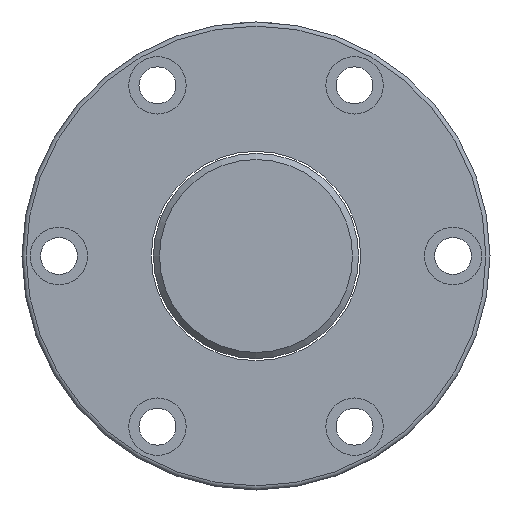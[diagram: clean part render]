
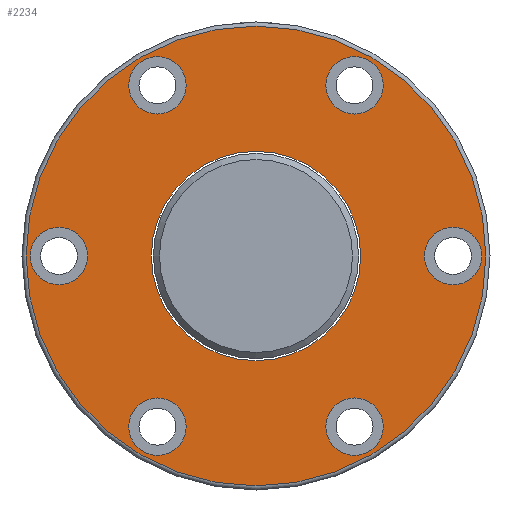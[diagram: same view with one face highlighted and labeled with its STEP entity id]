
A CAD part, left-side view. The second image highlights one B-rep face of the part: STEP entity #2234.
In plain terms, the highlighted planar face has unit normal (-1, 0, 0).
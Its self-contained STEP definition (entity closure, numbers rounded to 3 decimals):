
#9 = CIRCLE ( 'NONE', #2821, 7. ) ;
#85 = FACE_BOUND ( 'NONE', #2597, .T. ) ;
#100 = FACE_BOUND ( 'NONE', #2861, .T. ) ;
#181 = DIRECTION ( 'NONE',  ( 1., 0., 0. ) ) ;
#202 = DIRECTION ( 'NONE',  ( 1., 0., 0. ) ) ;
#273 = CARTESIAN_POINT ( 'NONE',  ( -60., -24.001, -41.57 ) ) ;
#274 = CARTESIAN_POINT ( 'NONE',  ( -60., 0., -56. ) ) ;
#293 = CIRCLE ( 'NONE', #1679, 7. ) ;
#294 = ORIENTED_EDGE ( 'NONE', *, *, #775, .T. ) ;
#309 = CARTESIAN_POINT ( 'NONE',  ( -60., 0., 0. ) ) ;
#310 = CARTESIAN_POINT ( 'NONE',  ( -60., -24., 41.57 ) ) ;
#316 = CARTESIAN_POINT ( 'NONE',  ( -60., 30.063, 45.07 ) ) ;
#337 = EDGE_LOOP ( 'NONE', ( #1004 ) ) ;
#510 = AXIS2_PLACEMENT_3D ( 'NONE', #309, #556, #797 ) ;
#514 = DIRECTION ( 'NONE',  ( 1., 0., 0. ) ) ;
#530 = DIRECTION ( 'NONE',  ( 0., -0.866, 0.5 ) ) ;
#556 = DIRECTION ( 'NONE',  ( 1., 0., 0. ) ) ;
#564 = VERTEX_POINT ( 'NONE', #1245 ) ;
#632 = DIRECTION ( 'NONE',  ( 0., 0., 1. ) ) ;
#659 = EDGE_CURVE ( 'NONE', #1369, #1369, #779, .T. ) ;
#754 = CIRCLE ( 'NONE', #2559, 25.5 ) ;
#775 = EDGE_CURVE ( 'NONE', #1841, #1841, #9, .T. ) ;
#779 = CIRCLE ( 'NONE', #1154, 7. ) ;
#782 = FACE_BOUND ( 'NONE', #1626, .T. ) ;
#797 = DIRECTION ( 'NONE',  ( 0., 0., -1. ) ) ;
#838 = EDGE_CURVE ( 'NONE', #2783, #2783, #293, .T. ) ;
#873 = EDGE_CURVE ( 'NONE', #1442, #1442, #1959, .T. ) ;
#942 = CARTESIAN_POINT ( 'NONE',  ( -60., 54.063, -3.5 ) ) ;
#970 = DIRECTION ( 'NONE',  ( 0., -0.866, -0.5 ) ) ;
#977 = EDGE_LOOP ( 'NONE', ( #1032 ) ) ;
#987 = ORIENTED_EDGE ( 'NONE', *, *, #1674, .T. ) ;
#989 = CIRCLE ( 'NONE', #510, 56. ) ;
#1004 = ORIENTED_EDGE ( 'NONE', *, *, #2108, .T. ) ;
#1005 = CARTESIAN_POINT ( 'NONE',  ( -60., 30., 0. ) ) ;
#1032 = ORIENTED_EDGE ( 'NONE', *, *, #659, .T. ) ;
#1112 = DIRECTION ( 'NONE',  ( 0., 0.866, -0.5 ) ) ;
#1115 = EDGE_LOOP ( 'NONE', ( #1252 ) ) ;
#1154 = AXIS2_PLACEMENT_3D ( 'NONE', #1777, #181, #1112 ) ;
#1207 = ORIENTED_EDGE ( 'NONE', *, *, #2049, .T. ) ;
#1208 = FACE_BOUND ( 'NONE', #2355, .T. ) ;
#1223 = DIRECTION ( 'NONE',  ( 0., 1., 0. ) ) ;
#1245 = CARTESIAN_POINT ( 'NONE',  ( -60., 0., -25.5 ) ) ;
#1252 = ORIENTED_EDGE ( 'NONE', *, *, #2290, .F. ) ;
#1267 = PLANE ( 'NONE',  #2941 ) ;
#1369 = VERTEX_POINT ( 'NONE', #942 ) ;
#1427 = DIRECTION ( 'NONE',  ( 1., 0., 0. ) ) ;
#1442 = VERTEX_POINT ( 'NONE', #2591 ) ;
#1626 = EDGE_LOOP ( 'NONE', ( #294 ) ) ;
#1637 = DIRECTION ( 'NONE',  ( 1., 0., 0. ) ) ;
#1672 = DIRECTION ( 'NONE',  ( 1., 0., 0. ) ) ;
#1674 = EDGE_CURVE ( 'NONE', #2319, #2319, #1905, .T. ) ;
#1679 = AXIS2_PLACEMENT_3D ( 'NONE', #2075, #1427, #1871 ) ;
#1680 = VERTEX_POINT ( 'NONE', #274 ) ;
#1686 = FACE_BOUND ( 'NONE', #2184, .T. ) ;
#1693 = CARTESIAN_POINT ( 'NONE',  ( -60., 24., -48.57 ) ) ;
#1777 = CARTESIAN_POINT ( 'NONE',  ( -60., 48.001, 0. ) ) ;
#1823 = CARTESIAN_POINT ( 'NONE',  ( -60., -48.001, 0. ) ) ;
#1841 = VERTEX_POINT ( 'NONE', #2121 ) ;
#1871 = DIRECTION ( 'NONE',  ( 0., 0., -1. ) ) ;
#1889 = CIRCLE ( 'NONE', #2125, 7. ) ;
#1905 = CIRCLE ( 'NONE', #2573, 7. ) ;
#1959 = CIRCLE ( 'NONE', #2053, 7. ) ;
#2049 = EDGE_CURVE ( 'NONE', #564, #564, #754, .T. ) ;
#2053 = AXIS2_PLACEMENT_3D ( 'NONE', #273, #1637, #970 ) ;
#2075 = CARTESIAN_POINT ( 'NONE',  ( -60., 24., -41.57 ) ) ;
#2090 = CARTESIAN_POINT ( 'NONE',  ( -60., 24.001, 41.57 ) ) ;
#2108 = EDGE_CURVE ( 'NONE', #2378, #2378, #1889, .T. ) ;
#2121 = CARTESIAN_POINT ( 'NONE',  ( -60., -54.063, 3.5 ) ) ;
#2125 = AXIS2_PLACEMENT_3D ( 'NONE', #310, #202, #632 ) ;
#2184 = EDGE_LOOP ( 'NONE', ( #1207 ) ) ;
#2234 = ADVANCED_FACE ( 'NONE', ( #2849, #1208, #2387, #85, #2804, #782, #100, #1686 ), #1267, .F. ) ;
#2290 = EDGE_CURVE ( 'NONE', #1680, #1680, #989, .T. ) ;
#2319 = VERTEX_POINT ( 'NONE', #316 ) ;
#2334 = DIRECTION ( 'NONE',  ( 1., 0., 0. ) ) ;
#2355 = EDGE_LOOP ( 'NONE', ( #2400 ) ) ;
#2357 = DIRECTION ( 'NONE',  ( 0., 0., -1. ) ) ;
#2378 = VERTEX_POINT ( 'NONE', #2813 ) ;
#2387 = FACE_BOUND ( 'NONE', #977, .T. ) ;
#2400 = ORIENTED_EDGE ( 'NONE', *, *, #838, .T. ) ;
#2542 = DIRECTION ( 'NONE',  ( 0., 0.866, 0.5 ) ) ;
#2559 = AXIS2_PLACEMENT_3D ( 'NONE', #2805, #1672, #2357 ) ;
#2573 = AXIS2_PLACEMENT_3D ( 'NONE', #2090, #514, #2542 ) ;
#2591 = CARTESIAN_POINT ( 'NONE',  ( -60., -30.063, -45.07 ) ) ;
#2597 = EDGE_LOOP ( 'NONE', ( #987 ) ) ;
#2598 = DIRECTION ( 'NONE',  ( 1., 0., 0. ) ) ;
#2774 = ORIENTED_EDGE ( 'NONE', *, *, #873, .T. ) ;
#2783 = VERTEX_POINT ( 'NONE', #1693 ) ;
#2804 = FACE_BOUND ( 'NONE', #337, .T. ) ;
#2805 = CARTESIAN_POINT ( 'NONE',  ( -60., 0., 0. ) ) ;
#2813 = CARTESIAN_POINT ( 'NONE',  ( -60., -24., 48.57 ) ) ;
#2821 = AXIS2_PLACEMENT_3D ( 'NONE', #1823, #2334, #530 ) ;
#2849 = FACE_OUTER_BOUND ( 'NONE', #1115, .T. ) ;
#2861 = EDGE_LOOP ( 'NONE', ( #2774 ) ) ;
#2941 = AXIS2_PLACEMENT_3D ( 'NONE', #1005, #2598, #1223 ) ;
